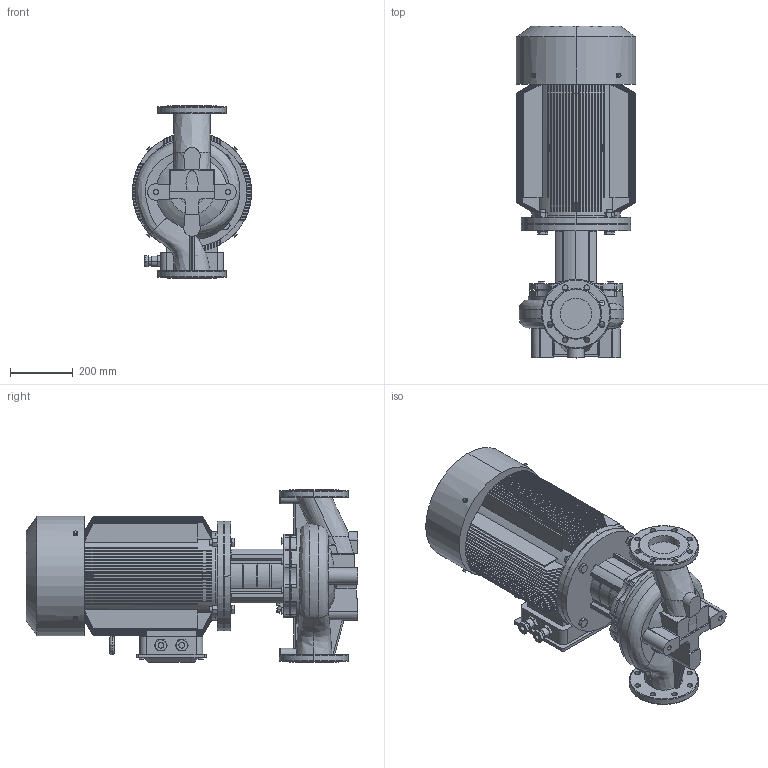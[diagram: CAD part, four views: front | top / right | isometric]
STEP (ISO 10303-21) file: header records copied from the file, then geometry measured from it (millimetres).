
FILE_DESCRIPTION(/* description */ (''),/* implementation_level */ '2;1');
FILE_NAME(/* name */ 'TD100-48-2安装尺寸图.stp',/* time_stamp */ '2026-09-07T16:30:09+08:00',/* author */ (''),/* organization */ (''),/* preprocessor_version */ 'ST-DEVELOPER v16.7',/* originating_system */ 'SIEMENS PLM Software NX 1847',/* authorisation */ '');
FILE_SCHEMA (('AP203_CONFIGURATION_CONTROLLED_3D_DESIGN_OF_MECHANICAL_PARTS_AND_ASSEMBLIES_MIM_LF { 1 0 10303 403 2 1 2}'));
Length unit declared in the file: millimetre
Products named in the file (1): Admi55F8EAC4z3u2
Bounding box: 380 x 1056.5 x 550 mm (x, y, z)
Volume: 81144120.9 mm3; surface area: 4872555.1 mm2
Topology: 1 solids, 8 shells, 1490 faces, 3808 edges, 2390 vertices
Faces by surface type: plane 600, cylinder 410, cone 390, torus 50, bspline 38, sphere 2
Full cylindrical faces by diameter (mm): 8 x1, 10 x1, 11.701 x8, 12.9 x1, 16.63 x8, 17.623 x12, 25.34 x4, 205 x1, 215 x1
Entity records: 52738 total; most frequent: CARTESIAN_POINT 18066, ORIENTED_EDGE 7400, DIRECTION 6962, EDGE_CURVE 3700, AXIS2_PLACEMENT_3D 2812, VERTEX_POINT 2349, EDGE_LOOP 1675, ADVANCED_FACE 1490
